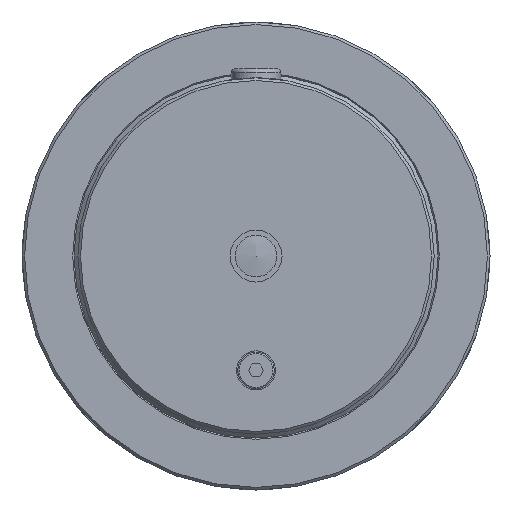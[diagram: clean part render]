
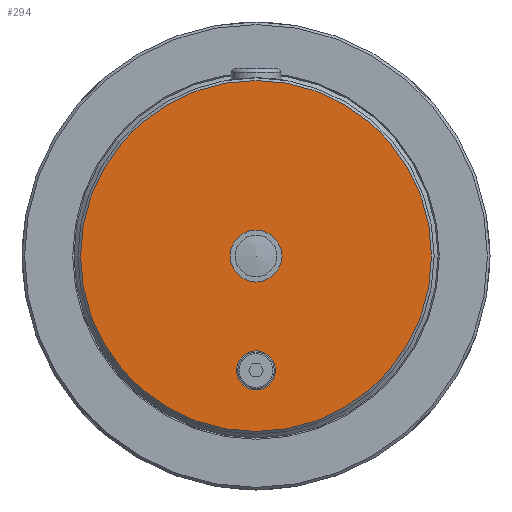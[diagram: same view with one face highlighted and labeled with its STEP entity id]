
A CAD part, left-side view. The second image highlights one B-rep face of the part: STEP entity #294.
In plain terms, the highlighted planar face has unit normal (-1, 0, 0).
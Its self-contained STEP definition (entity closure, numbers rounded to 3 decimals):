
#294 = ADVANCED_FACE( '', ( #668, #669, #670 ), #671, .F. );
#668 = FACE_OUTER_BOUND( '', #1068, .T. );
#669 = FACE_BOUND( '', #1069, .T. );
#670 = FACE_BOUND( '', #1070, .T. );
#671 = PLANE( '', #1071 );
#1068 = EDGE_LOOP( '', ( #1727 ) );
#1069 = EDGE_LOOP( '', ( #1728 ) );
#1070 = EDGE_LOOP( '', ( #1729 ) );
#1071 = AXIS2_PLACEMENT_3D( '', #1730, #1731, #1732 );
#1727 = ORIENTED_EDGE( '', *, *, #1921, .T. );
#1728 = ORIENTED_EDGE( '', *, *, #1894, .T. );
#1729 = ORIENTED_EDGE( '', *, *, #2070, .F. );
#1730 = CARTESIAN_POINT( '', ( 0., 0., 10. ) );
#1731 = DIRECTION( '', ( 1., 0., 0. ) );
#1732 = DIRECTION( '', ( 0., 1., 0. ) );
#1894 = EDGE_CURVE( '', #2184, #2184, #2185, .T. );
#1921 = EDGE_CURVE( '', #2225, #2225, #2226, .T. );
#2070 = EDGE_CURVE( '', #2429, #2429, #2430, .T. );
#2184 = VERTEX_POINT( '', #2656 );
#2185 = CIRCLE( '', #2657, 7.5 );
#2225 = VERTEX_POINT( '', #2836 );
#2226 = CIRCLE( '', #2837, 67.5 );
#2429 = VERTEX_POINT( '', #3586 );
#2430 = CIRCLE( '', #3587, 10. );
#2656 = CARTESIAN_POINT( '', ( 0., 0., -36.5 ) );
#2657 = AXIS2_PLACEMENT_3D( '', #3676, #3677, #3678 );
#2836 = CARTESIAN_POINT( '', ( 0., 0., -67.5 ) );
#2837 = AXIS2_PLACEMENT_3D( '', #3706, #3707, #3708 );
#3586 = CARTESIAN_POINT( '', ( 0., 0., 10. ) );
#3587 = AXIS2_PLACEMENT_3D( '', #3868, #3869, #3870 );
#3676 = CARTESIAN_POINT( '', ( 0., 0., -44. ) );
#3677 = DIRECTION( '', ( 1., 0., 0. ) );
#3678 = DIRECTION( '', ( 0., 0., 1. ) );
#3706 = CARTESIAN_POINT( '', ( 0., 0., 0. ) );
#3707 = DIRECTION( '', ( -1., 0., 0. ) );
#3708 = DIRECTION( '', ( 0., 0., -1. ) );
#3868 = CARTESIAN_POINT( '', ( 0., 0., 0. ) );
#3869 = DIRECTION( '', ( -1., 0., 0. ) );
#3870 = DIRECTION( '', ( 0., 0., 1. ) );
